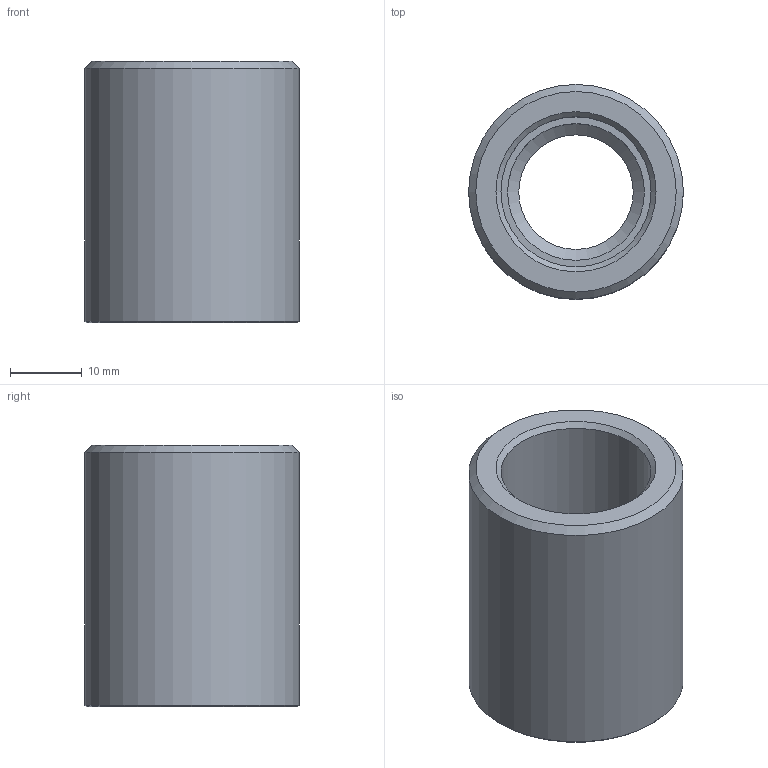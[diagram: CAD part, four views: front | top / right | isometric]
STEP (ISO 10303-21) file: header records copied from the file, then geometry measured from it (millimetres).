
FILE_DESCRIPTION( ( 'Unknown' ), '1' );
FILE_NAME( 'F:/U_Proces/Dokumentation/7000 3D Step filer/7000-/7000131/PM022.2.stp', 'Unknown', ( 'Unknown' ), ( 'Unknown' ), 'PSStep 13.0', 'Unknown', ' ' );
FILE_SCHEMA( ( 'AUTOMOTIVE_DESIGN { 1 0 10303 214 1 1 1 1 }' ) );
Length unit declared in the file: millimetre
Products named in the file (1): 1
Bounding box: 30 x 30 x 36.5 mm (x, y, z)
Volume: 13878 mm3; surface area: 6551.4 mm2
Topology: 1 solids, 1 shells, 14 faces, 27 edges, 17 vertices
Faces by surface type: cone 5, plane 4, cylinder 4, torus 1
Full cylindrical faces by diameter (mm): 19.1 x1, 20.96 x1, 26 x1, 30 x1
Entity records: 416 total; most frequent: DIRECTION 58, CARTESIAN_POINT 43, AXIS2_PLACEMENT_3D 29, EDGE_LOOP 28, ORIENTED_EDGE 28, FACE_OUTER_BOUND 19, STYLED_ITEM 14, PRESENTATION_STYLE_ASSIGNMENT 14
